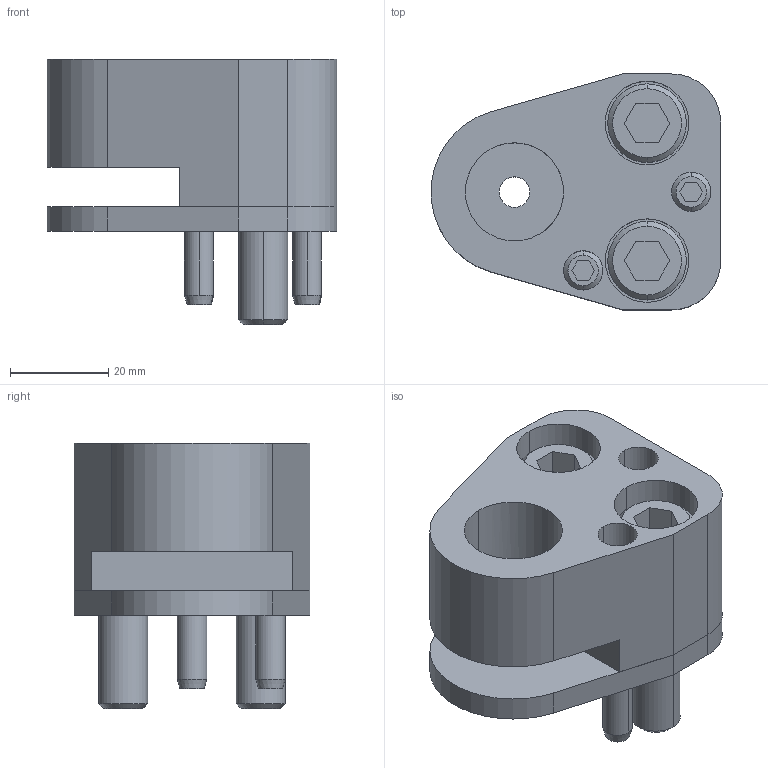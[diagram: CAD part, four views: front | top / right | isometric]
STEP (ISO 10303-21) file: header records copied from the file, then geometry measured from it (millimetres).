
FILE_DESCRIPTION(/* description */ (''),/* implementation_level */ '2;1');
FILE_NAME(/* name */ '3d_fp-fp20_03778_r00.stp',/* time_stamp */ '2011-01-10T14:15:35+09:00',/* author */ ('MISUMI'),/* organization */ (''),/* preprocessor_version */ 'ST-DEVELOPER v11',/* originating_system */ 'UGS - NX 5.0',/* authorisation */ '');
FILE_SCHEMA (('CONFIG_CONTROL_DESIGN'));
Length unit declared in the file: millimetre
Products named in the file (1): 3d_fp-fp20_03778_r00
Bounding box: 58.94 x 48 x 54 mm (x, y, z)
Volume: 64773.7 mm3; surface area: 25956.4 mm2
Topology: 8 solids, 8 shells, 154 faces, 352 edges, 227 vertices
Faces by surface type: plane 68, cylinder 60, cone 26
Entity records: 4516 total; most frequent: DIRECTION 802, CARTESIAN_POINT 793, ORIENTED_EDGE 704, EDGE_CURVE 352, AXIS2_PLACEMENT_3D 302, VERTEX_POINT 227, LINE 198, VECTOR 198
